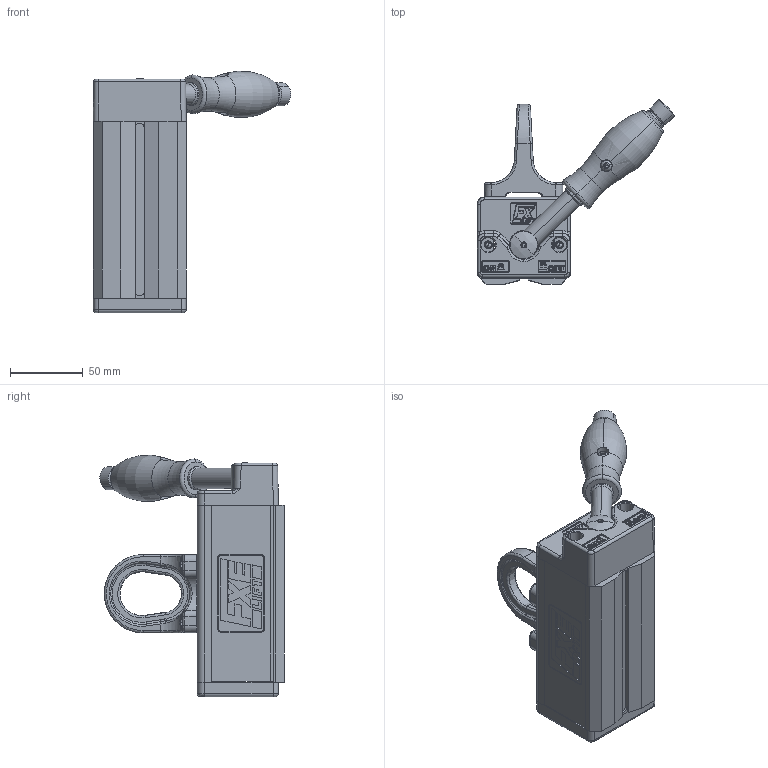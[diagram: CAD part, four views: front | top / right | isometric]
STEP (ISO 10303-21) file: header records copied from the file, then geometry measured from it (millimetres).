
FILE_DESCRIPTION (( 'STEP AP214' ), '1' );
FILE_NAME ('FX 150.STEP', '2016-06-15T08:02:41', ( '' ), ( '' ), 'SwSTEP 2.0', 'SolidWorks 2013', '' );
FILE_SCHEMA (( 'AUTOMOTIVE_DESIGN' ));
Length unit declared in the file: millimetre
Products named in the file (1): FX 150
Bounding box: 136.06 x 127.09 x 166.39 mm (x, y, z)
Surface area: 81596.7 mm2 (no closed solid volume)
Topology: 0 solids, 24 shells, 984 faces, 3032 edges, 1979 vertices
Faces by surface type: plane 405, bspline 259, cylinder 242, cone 54, torus 20, sphere 4
Entity records: 57535 total; most frequent: CARTESIAN_POINT 22748, ORIENTED_EDGE 5087, DIRECTION 4196, EDGE_CURVE 3006, VERTEX_POINT 1979, VECTOR 1526, LINE 1526, AXIS2_PLACEMENT_3D 1335
